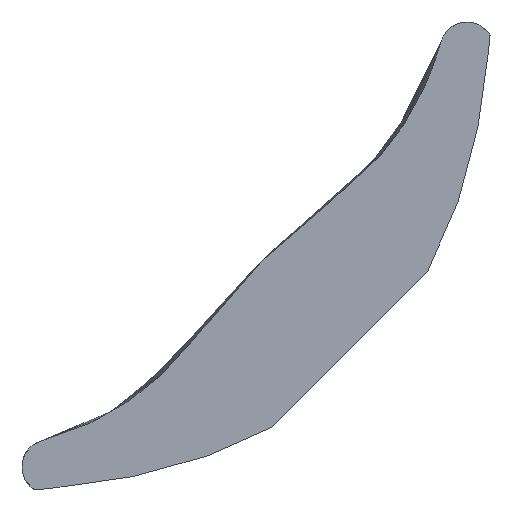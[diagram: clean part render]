
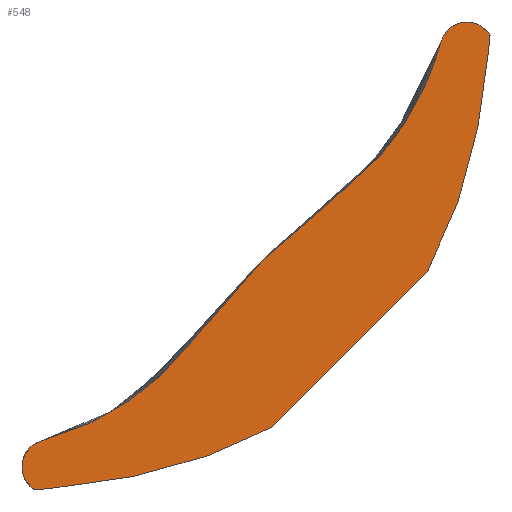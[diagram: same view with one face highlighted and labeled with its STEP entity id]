
A CAD part, left-side view. The second image highlights one B-rep face of the part: STEP entity #548.
In plain terms, the highlighted planar face has unit normal (-1, 0, 0).
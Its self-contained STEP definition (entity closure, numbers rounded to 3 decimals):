
#70=FACE_OUTER_BOUND('',#106,.T.);
#106=EDGE_LOOP('',(#434,#435,#436,#437,#438,#439,#440,#441,#442));
#127=B_SPLINE_CURVE_WITH_KNOTS('',3,(#704,#705,#706,#707,#708,#709,#710),
 .UNSPECIFIED.,.F.,.F.,(4,3,4),(-1.376,-0.99,-0.516),
 .UNSPECIFIED.);
#129=B_SPLINE_CURVE_WITH_KNOTS('',3,(#744,#745,#746,#747,#748,#749,#750),
 .UNSPECIFIED.,.F.,.F.,(4,3,4),(-2.987,-2.805,-2.226),
 .UNSPECIFIED.);
#133=B_SPLINE_CURVE_WITH_KNOTS('',3,(#805,#806,#807,#808,#809,#810,#811,
#812,#813,#814,#815,#816,#817),.UNSPECIFIED.,.F.,.F.,(4,3,3,3,4),(0.065,
0.114,0.164,0.23,0.296),
 .UNSPECIFIED.);
#159=B_SPLINE_CURVE_WITH_KNOTS('',3,(#1436,#1437,#1438,#1439,#1440,#1441,
#1442,#1443,#1444,#1445),.UNSPECIFIED.,.F.,.F.,(4,3,3,4),(0.,0.593,
0.947,1.021),.UNSPECIFIED.);
#160=B_SPLINE_CURVE_WITH_KNOTS('',3,(#1447,#1448,#1449,#1450,#1451,#1452,
#1453,#1454,#1455,#1456),.UNSPECIFIED.,.F.,.F.,(4,3,3,4),(0.462,
0.59,0.892,1.191),.UNSPECIFIED.);
#161=B_SPLINE_CURVE_WITH_KNOTS('',3,(#1457,#1458,#1459,#1460,#1461,#1462,
#1463,#1464,#1465,#1466,#1467,#1468,#1469),.UNSPECIFIED.,.F.,.F.,(4,3,3,
3,4),(0.,0.05,0.099,0.166,0.232),
 .UNSPECIFIED.);
#185=LINE('',#650,#200);
#188=LINE('',#671,#203);
#192=LINE('',#722,#207);
#200=VECTOR('',#599,10.);
#203=VECTOR('',#604,10.);
#207=VECTOR('',#610,10.);
#215=VERTEX_POINT('',#648);
#216=VERTEX_POINT('',#649);
#220=VERTEX_POINT('',#669);
#221=VERTEX_POINT('',#670);
#225=VERTEX_POINT('',#703);
#227=VERTEX_POINT('',#721);
#232=VERTEX_POINT('',#800);
#251=VERTEX_POINT('',#1435);
#252=VERTEX_POINT('',#1446);
#269=EDGE_CURVE('',#215,#216,#185,.T.);
#274=EDGE_CURVE('',#220,#221,#188,.T.);
#279=EDGE_CURVE('',#225,#220,#127,.T.);
#282=EDGE_CURVE('',#227,#225,#192,.T.);
#287=EDGE_CURVE('',#216,#227,#129,.T.);
#291=EDGE_CURVE('',#221,#232,#133,.T.);
#320=EDGE_CURVE('',#251,#232,#159,.T.);
#321=EDGE_CURVE('',#252,#251,#160,.T.);
#322=EDGE_CURVE('',#252,#215,#161,.T.);
#434=ORIENTED_EDGE('',*,*,#274,.T.);
#435=ORIENTED_EDGE('',*,*,#291,.T.);
#436=ORIENTED_EDGE('',*,*,#320,.F.);
#437=ORIENTED_EDGE('',*,*,#321,.F.);
#438=ORIENTED_EDGE('',*,*,#322,.T.);
#439=ORIENTED_EDGE('',*,*,#269,.T.);
#440=ORIENTED_EDGE('',*,*,#287,.T.);
#441=ORIENTED_EDGE('',*,*,#282,.T.);
#442=ORIENTED_EDGE('',*,*,#279,.T.);
#529=PLANE('',#588);
#548=ADVANCED_FACE('',(#70),#529,.T.);
#588=AXIS2_PLACEMENT_3D('',#1434,#627,#628);
#599=DIRECTION('',(0.,-0.996,0.09));
#604=DIRECTION('',(0.,-0.093,0.996));
#610=DIRECTION('',(0.,-0.707,0.707));
#627=DIRECTION('center_axis',(-1.,0.,0.));
#628=DIRECTION('ref_axis',(0.,-1.,0.));
#648=CARTESIAN_POINT('',(-30.,-71.174,-86.545));
#649=CARTESIAN_POINT('',(-30.,-71.772,-86.491));
#650=CARTESIAN_POINT('',(-30.,-74.783,-86.22));
#669=CARTESIAN_POINT('',(-30.,-87.988,-70.287));
#670=CARTESIAN_POINT('',(-30.,-88.044,-69.69));
#671=CARTESIAN_POINT('',(-30.,-87.68,-73.602));
#703=CARTESIAN_POINT('',(-30.,-85.73,-78.44));
#704=CARTESIAN_POINT('Ctrl Pts',(-30.,-85.73,-78.44));
#705=CARTESIAN_POINT('Ctrl Pts',(-30.,-86.334,-77.336));
#706=CARTESIAN_POINT('Ctrl Pts',(-30.,-86.805,-76.159));
#707=CARTESIAN_POINT('Ctrl Pts',(-30.,-87.159,-74.933));
#708=CARTESIAN_POINT('Ctrl Pts',(-30.,-87.593,-73.43));
#709=CARTESIAN_POINT('Ctrl Pts',(-30.,-87.841,-71.868));
#710=CARTESIAN_POINT('Ctrl Pts',(-30.,-87.988,-70.287));
#721=CARTESIAN_POINT('',(-30.,-79.936,-84.231));
#722=CARTESIAN_POINT('',(-30.,-81.384,-82.783));
#744=CARTESIAN_POINT('Ctrl Pts',(-30.,-71.772,-86.491));
#745=CARTESIAN_POINT('Ctrl Pts',(-30.,-72.539,-86.422));
#746=CARTESIAN_POINT('Ctrl Pts',(-30.,-73.284,-86.33));
#747=CARTESIAN_POINT('Ctrl Pts',(-30.,-74.004,-86.208));
#748=CARTESIAN_POINT('Ctrl Pts',(-30.,-76.297,-85.818));
#749=CARTESIAN_POINT('Ctrl Pts',(-30.,-78.254,-85.147));
#750=CARTESIAN_POINT('Ctrl Pts',(-30.,-79.936,-84.231));
#800=CARTESIAN_POINT('',(-30.,-86.231,-69.935));
#805=CARTESIAN_POINT('Ctrl Pts',(-30.,-88.044,-69.69));
#806=CARTESIAN_POINT('Ctrl Pts',(-30.,-87.958,-69.549));
#807=CARTESIAN_POINT('Ctrl Pts',(-30.,-87.836,-69.431));
#808=CARTESIAN_POINT('Ctrl Pts',(-30.,-87.693,-69.348));
#809=CARTESIAN_POINT('Ctrl Pts',(-30.,-87.55,-69.265));
#810=CARTESIAN_POINT('Ctrl Pts',(-30.,-87.387,-69.218));
#811=CARTESIAN_POINT('Ctrl Pts',(-30.,-87.222,-69.213));
#812=CARTESIAN_POINT('Ctrl Pts',(-30.,-87.002,-69.207));
#813=CARTESIAN_POINT('Ctrl Pts',(-30.,-86.781,-69.275));
#814=CARTESIAN_POINT('Ctrl Pts',(-30.,-86.603,-69.405));
#815=CARTESIAN_POINT('Ctrl Pts',(-30.,-86.426,-69.534));
#816=CARTESIAN_POINT('Ctrl Pts',(-30.,-86.292,-69.724));
#817=CARTESIAN_POINT('Ctrl Pts',(-30.,-86.231,-69.935));
#1434=CARTESIAN_POINT('Origin',(-30.,-77.499,-75.998));
#1435=CARTESIAN_POINT('',(-30.,-79.581,-78.081));
#1436=CARTESIAN_POINT('Ctrl Pts',(-30.,-79.581,-78.081));
#1437=CARTESIAN_POINT('Ctrl Pts',(-30.,-80.979,-76.684));
#1438=CARTESIAN_POINT('Ctrl Pts',(-30.,-82.371,-75.829));
#1439=CARTESIAN_POINT('Ctrl Pts',(-30.,-83.64,-74.524));
#1440=CARTESIAN_POINT('Ctrl Pts',(-30.,-84.398,-73.745));
#1441=CARTESIAN_POINT('Ctrl Pts',(-30.,-85.203,-72.711));
#1442=CARTESIAN_POINT('Ctrl Pts',(-30.,-85.839,-71.093));
#1443=CARTESIAN_POINT('Ctrl Pts',(-30.,-85.972,-70.754));
#1444=CARTESIAN_POINT('Ctrl Pts',(-30.,-86.105,-70.372));
#1445=CARTESIAN_POINT('Ctrl Pts',(-30.,-86.23,-69.935));
#1446=CARTESIAN_POINT('',(-30.,-71.427,-84.733));
#1447=CARTESIAN_POINT('Ctrl Pts',(-30.,-71.427,-84.733));
#1448=CARTESIAN_POINT('Ctrl Pts',(-30.,-71.87,-84.607));
#1449=CARTESIAN_POINT('Ctrl Pts',(-30.,-72.305,-84.461));
#1450=CARTESIAN_POINT('Ctrl Pts',(-30.,-72.726,-84.291));
#1451=CARTESIAN_POINT('Ctrl Pts',(-30.,-73.717,-83.892));
#1452=CARTESIAN_POINT('Ctrl Pts',(-30.,-74.901,-83.254));
#1453=CARTESIAN_POINT('Ctrl Pts',(-30.,-76.171,-81.996));
#1454=CARTESIAN_POINT('Ctrl Pts',(-30.,-77.427,-80.752));
#1455=CARTESIAN_POINT('Ctrl Pts',(-30.,-78.208,-79.455));
#1456=CARTESIAN_POINT('Ctrl Pts',(-30.,-79.581,-78.081));
#1457=CARTESIAN_POINT('Ctrl Pts',(-30.,-71.427,-84.733));
#1458=CARTESIAN_POINT('Ctrl Pts',(-30.,-71.268,-84.778));
#1459=CARTESIAN_POINT('Ctrl Pts',(-30.,-71.121,-84.863));
#1460=CARTESIAN_POINT('Ctrl Pts',(-30.,-71.003,-84.978));
#1461=CARTESIAN_POINT('Ctrl Pts',(-30.,-70.884,-85.093));
#1462=CARTESIAN_POINT('Ctrl Pts',(-30.,-70.795,-85.238));
#1463=CARTESIAN_POINT('Ctrl Pts',(-30.,-70.746,-85.396));
#1464=CARTESIAN_POINT('Ctrl Pts',(-30.,-70.68,-85.606));
#1465=CARTESIAN_POINT('Ctrl Pts',(-30.,-70.686,-85.838));
#1466=CARTESIAN_POINT('Ctrl Pts',(-30.,-70.763,-86.044));
#1467=CARTESIAN_POINT('Ctrl Pts',(-30.,-70.84,-86.25));
#1468=CARTESIAN_POINT('Ctrl Pts',(-30.,-70.987,-86.43));
#1469=CARTESIAN_POINT('Ctrl Pts',(-30.,-71.174,-86.545));
